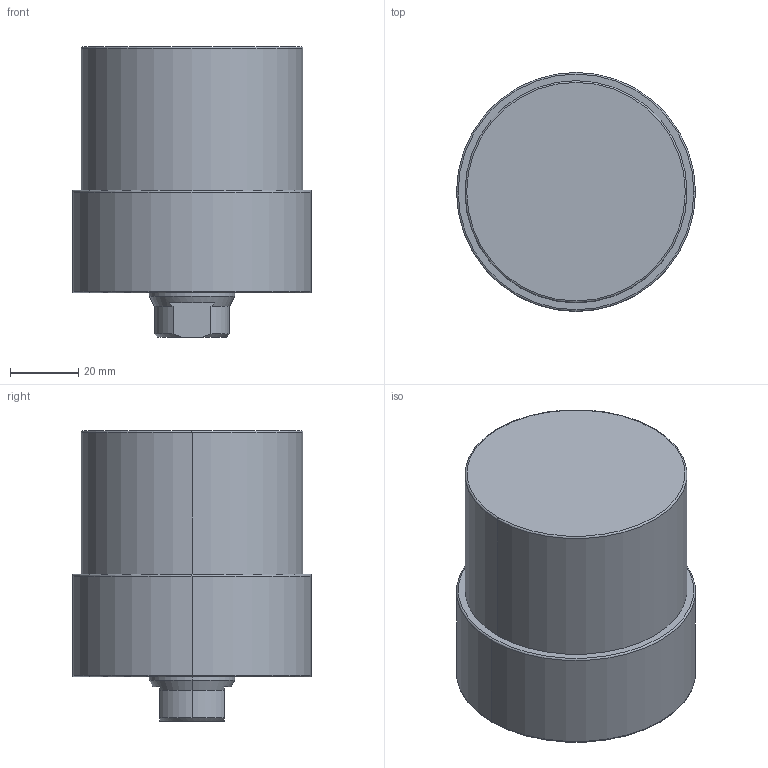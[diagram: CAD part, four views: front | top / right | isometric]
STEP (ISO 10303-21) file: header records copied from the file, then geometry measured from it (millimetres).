
FILE_DESCRIPTION (( 'STEP AP203' ), '1' );
FILE_NAME ('CLLU-065GA-025.STEP', '2020-01-06T08:04:46', ( '' ), ( '' ), 'SwSTEP 2.0', 'SolidWorks 2015', '' );
FILE_SCHEMA (( 'CONFIG_CONTROL_DESIGN' ));
Length unit declared in the file: millimetre
Products named in the file (1): CLLU-065GA-025
Bounding box: 70 x 70 x 85 mm (x, y, z)
Volume: 255359.7 mm3; surface area: 25740.4 mm2
Topology: 1 solids, 1 shells, 64 faces, 145 edges, 82 vertices
Faces by surface type: cone 25, cylinder 23, plane 10, torus 6
Entity records: 1811 total; most frequent: DIRECTION 332, CARTESIAN_POINT 310, ORIENTED_EDGE 270, AXIS2_PLACEMENT_3D 140, EDGE_CURVE 135, VERTEX_POINT 82, CIRCLE 75, EDGE_LOOP 73
